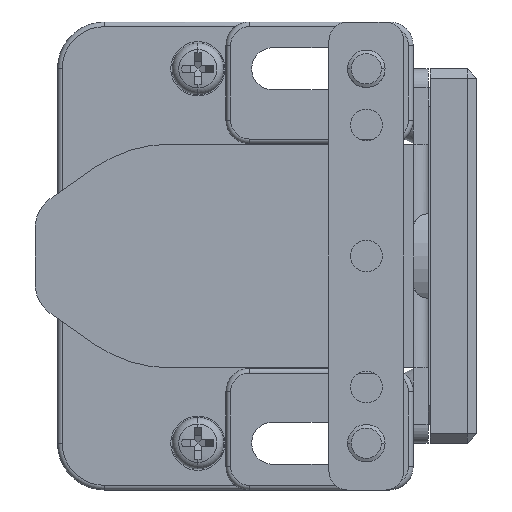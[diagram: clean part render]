
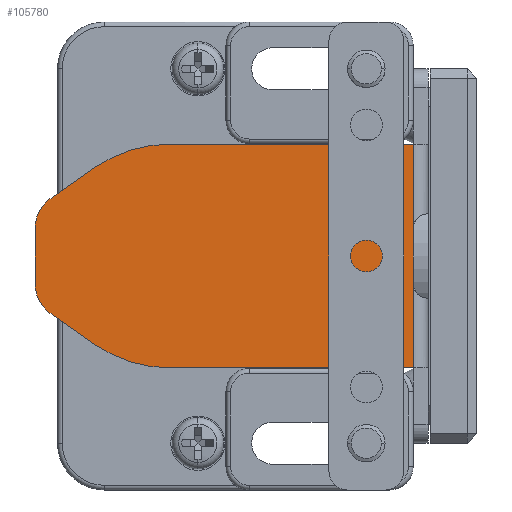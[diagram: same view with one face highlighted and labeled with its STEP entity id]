
A CAD part, left-side view. The second image highlights one B-rep face of the part: STEP entity #105780.
In plain terms, the highlighted planar face has unit normal (-1, 0, 0) as drawn and (0, 0, 1) by its records, which use the part's own axes.
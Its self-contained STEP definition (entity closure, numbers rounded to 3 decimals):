
#104570=CARTESIAN_POINT('',(37.439,57.985,10.6));
#104580=VERTEX_POINT('',#104570);
#104610=CARTESIAN_POINT('',(37.439,31.972,10.6));
#104620=DIRECTION('',(0.,-1.,0.));
#104630=VECTOR('',#104620,1.);
#104640=LINE('',#104610,#104630);
#104650=CARTESIAN_POINT('',(37.439,31.972,10.6));
#104660=VERTEX_POINT('',#104650);
#104670=EDGE_CURVE('',#104580,#104660,#104640,.T.);
#104800=CARTESIAN_POINT('',(34.775,30.808,10.6));
#104810=DIRECTION('',(0.,0.,-1.));
#104820=DIRECTION('',(1.,0.,0.));
#104830=AXIS2_PLACEMENT_3D('',#104800,#104810,#104820);
#104840=PLANE('',#104830);
#104850=ORIENTED_EDGE('',*,*,#104670,.T.);
#104860=CARTESIAN_POINT('',(51.439,57.985,10.6));
#104870=DIRECTION('',(0.,0.,-1.));
#104880=DIRECTION('',(0.,-1.,0.));
#104890=AXIS2_PLACEMENT_3D('',#104860,#104870,#104880);
#104900=CIRCLE('',#104890,14.);
#104910=CARTESIAN_POINT('',(39.943,65.975,10.6));
#104920=VERTEX_POINT('',#104910);
#104930=EDGE_CURVE('',#104580,#104920,#104900,.T.);
#104940=ORIENTED_EDGE('',*,*,#104930,.F.);
#104950=CARTESIAN_POINT('',(39.943,65.975,10.6));
#104960=DIRECTION('',(0.571,0.821,
0.));
#104970=VECTOR('',#104960,1.);
#104980=LINE('',#104950,#104970);
#104990=CARTESIAN_POINT('',(43.196,70.655,10.6));
#105000=VERTEX_POINT('',#104990);
#105010=EDGE_CURVE('',#104920,#105000,#104980,.T.);
#105020=ORIENTED_EDGE('',*,*,#105010,.F.);
#105030=CARTESIAN_POINT('',(46.48,68.372,10.6));
#105040=DIRECTION('',(0.,0.,-1.));
#105050=DIRECTION('',(0.,-1.,0.));
#105060=AXIS2_PLACEMENT_3D('',#105030,#105040,#105050);
#105070=CIRCLE('',#105060,4.);
#105080=CARTESIAN_POINT('',(46.48,72.372,10.6));
#105090=VERTEX_POINT('',#105080);
#105100=EDGE_CURVE('',#105000,#105090,#105070,.T.);
#105110=ORIENTED_EDGE('',*,*,#105100,.F.);
#105120=CARTESIAN_POINT('',(46.48,72.372,10.6));
#105130=DIRECTION('',(1.,0.,0.));
#105140=VECTOR('',#105130,1.);
#105150=LINE('',#105120,#105140);
#105160=CARTESIAN_POINT('',(52.298,72.372,10.6));
#105170=VERTEX_POINT('',#105160);
#105180=EDGE_CURVE('',#105090,#105170,#105150,.T.);
#105190=ORIENTED_EDGE('',*,*,#105180,.F.);
#105200=CARTESIAN_POINT('',(52.298,68.372,10.6));
#105210=DIRECTION('',(0.,0.,-1.));
#105220=DIRECTION('',(0.,-1.,0.));
#105230=AXIS2_PLACEMENT_3D('',#105200,#105210,#105220);
#105240=CIRCLE('',#105230,4.);
#105250=CARTESIAN_POINT('',(55.583,70.655,10.6));
#105260=VERTEX_POINT('',#105250);
#105270=EDGE_CURVE('',#105170,#105260,#105240,.T.);
#105280=ORIENTED_EDGE('',*,*,#105270,.F.);
#105290=CARTESIAN_POINT('',(55.583,70.655,10.6));
#105300=DIRECTION('',(0.571,-0.821,
0.));
#105310=VECTOR('',#105300,1.);
#105320=LINE('',#105290,#105310);
#105330=CARTESIAN_POINT('',(58.835,65.975,10.6));
#105340=VERTEX_POINT('',#105330);
#105350=EDGE_CURVE('',#105260,#105340,#105320,.T.);
#105360=ORIENTED_EDGE('',*,*,#105350,.F.);
#105370=CARTESIAN_POINT('',(47.339,57.985,10.6));
#105380=DIRECTION('',(0.,0.,-1.));
#105390=DIRECTION('',(0.,-1.,0.));
#105400=AXIS2_PLACEMENT_3D('',#105370,#105380,#105390);
#105410=CIRCLE('',#105400,14.);
#105420=CARTESIAN_POINT('',(61.339,57.985,10.6));
#105430=VERTEX_POINT('',#105420);
#105440=EDGE_CURVE('',#105340,#105430,#105410,.T.);
#105450=ORIENTED_EDGE('',*,*,#105440,.F.);
#105460=CARTESIAN_POINT('',(61.339,57.985,10.6));
#105470=DIRECTION('',(0.,-1.,0.));
#105480=VECTOR('',#105470,1.);
#105490=LINE('',#105460,#105480);
#105500=CARTESIAN_POINT('',(61.339,31.972,10.6));
#105510=VERTEX_POINT('',#105500);
#105520=EDGE_CURVE('',#105430,#105510,#105490,.T.);
#105530=ORIENTED_EDGE('',*,*,#105520,.F.);
#105540=CARTESIAN_POINT('',(31.274,31.972,10.6));
#105550=DIRECTION('',(1.,0.,0.));
#105560=VECTOR('',#105550,1.);
#105570=LINE('',#105540,#105560);
#105580=CARTESIAN_POINT('',(52.289,31.972,10.6));
#105590=VERTEX_POINT('',#105580);
#105600=EDGE_CURVE('',#105590,#105510,#105570,.T.);
#105610=ORIENTED_EDGE('',*,*,#105600,.T.);
#105620=CARTESIAN_POINT('',(44.889,31.972,10.6));
#105630=DIRECTION('',(1.,0.,0.));
#105640=VECTOR('',#105630,1.);
#105650=LINE('',#105620,#105640);
#105660=CARTESIAN_POINT('',(46.489,31.972,10.6));
#105670=VERTEX_POINT('',#105660);
#105680=EDGE_CURVE('',#105670,#105590,#105650,.T.);
#105690=ORIENTED_EDGE('',*,*,#105680,.T.);
#105700=CARTESIAN_POINT('',(31.274,31.972,10.6));
#105710=DIRECTION('',(1.,0.,0.));
#105720=VECTOR('',#105710,1.);
#105730=LINE('',#105700,#105720);
#105740=EDGE_CURVE('',#104660,#105670,#105730,.T.);
#105750=ORIENTED_EDGE('',*,*,#105740,.T.);
#105760=EDGE_LOOP('',(#105750,#105690,#105610,#105530,#105450,#105360,
#105280,#105190,#105110,#105020,#104940,#104850));
#105770=FACE_OUTER_BOUND('',#105760,.T.);
#105780=ADVANCED_FACE('',(#105770),#104840,.F.);
